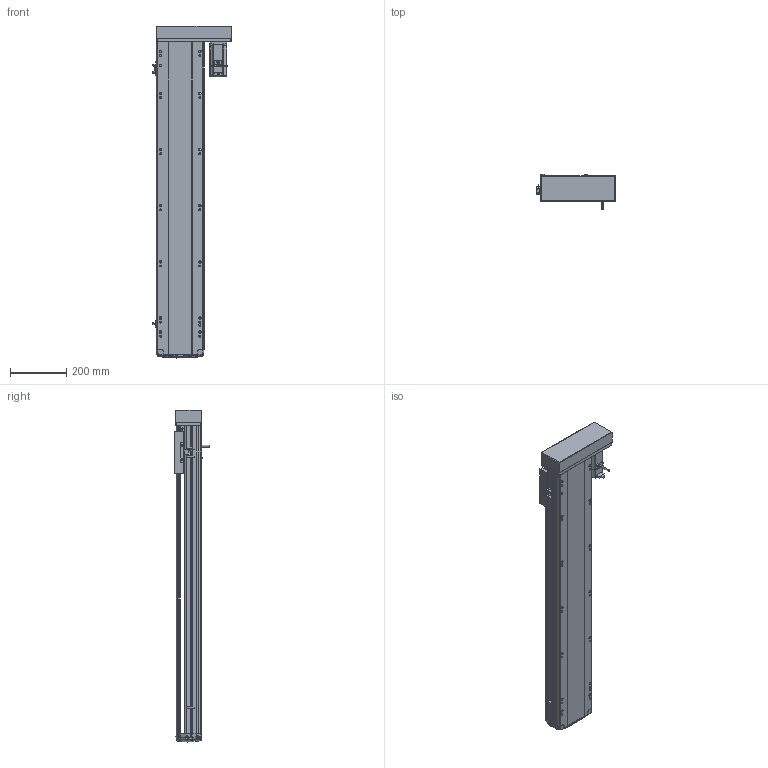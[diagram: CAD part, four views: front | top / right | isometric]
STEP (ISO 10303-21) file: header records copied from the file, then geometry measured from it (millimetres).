
FILE_DESCRIPTION (( 'STEP AP214' ), '1' );
FILE_NAME ('RTH17-XX-900-L-M40-C4.STEP', '2025-10-24T08:48:05', ( '' ), ( '' ), 'SwSTEP 2.0', 'SolidWorks 2018', '' );
FILE_SCHEMA (( 'AUTOMOTIVE_DESIGN' ));
Length unit declared in the file: millimetre
Products named in the file (10): N_RTH17-M-011底座^RTH17-XX-XX-L-M40-C4（方程式）; N_RTH-BL-012 感应片(外置)^RTH17-XX-XX-L-M40-C4（方程式）; N_RTH17-GY-001P^RTH17-XX-XX-L-M40-C4（方程式）; RTH17-XX-900-L-M40-C4; N_RTH17-L-018盖子^RTH17-XX-XX-L-M40-C4（方程式）; N_OMRON EE-SX672 換覜ん^RTH17-XX-XX-L-M40-C4ㄗ源最宒ㄘ; N_M40^RTH17-XX-XX-L-M40-C4（方程式）; N_RTH17-E-004丝杆螺母连接座^RTH17-XX-XX-L-M40-C4（方程式）; N_RTH17-M-007上盖^RTH17-XX-XX-L-M40-C4（方程式）; N_RTH17-L-008-P40电机安装板左转折^RTH17-XX-XX-L-M40-C4（方程式）
Assembly tree (11 placements, depth 2):
  RTH17-XX-900-L-M40-C4
    N_RTH17-M-011底座^RTH17-XX-XX-L-M40-C4（方程式）
    N_RTH17-M-007上盖^RTH17-XX-XX-L-M40-C4（方程式）
    N_M40^RTH17-XX-XX-L-M40-C4（方程式）
    N_OMRON EE-SX672 換覜ん^RTH17-XX-XX-L-M40-C4ㄗ源最宒ㄘ  x3
    N_RTH-BL-012 感应片(外置)^RTH17-XX-XX-L-M40-C4（方程式）
    N_RTH17-L-008-P40电机安装板左转折^RTH17-XX-XX-L-M40-C4（方程式）
    N_RTH17-L-018盖子^RTH17-XX-XX-L-M40-C4（方程式）
    N_RTH17-E-004丝杆螺母连接座^RTH17-XX-XX-L-M40-C4（方程式）
    N_RTH17-GY-001P^RTH17-XX-XX-L-M40-C4（方程式）
Bounding box: 281 x 127 x 1182.99 mm (x, y, z)
Volume: 10165792.4 mm3; surface area: 1304024.8 mm2
Topology: 13 solids, 15 shells, 1679 faces, 4683 edges, 3054 vertices
Faces by surface type: plane 837, cylinder 475, bspline 330, cone 28, torus 9
Entity records: 49286 total; most frequent: CARTESIAN_POINT 19889, ORIENTED_EDGE 6390, DIRECTION 5269, EDGE_CURVE 3199, VERTEX_POINT 2090, LINE 1783, VECTOR 1783, AXIS2_PLACEMENT_3D 1743
